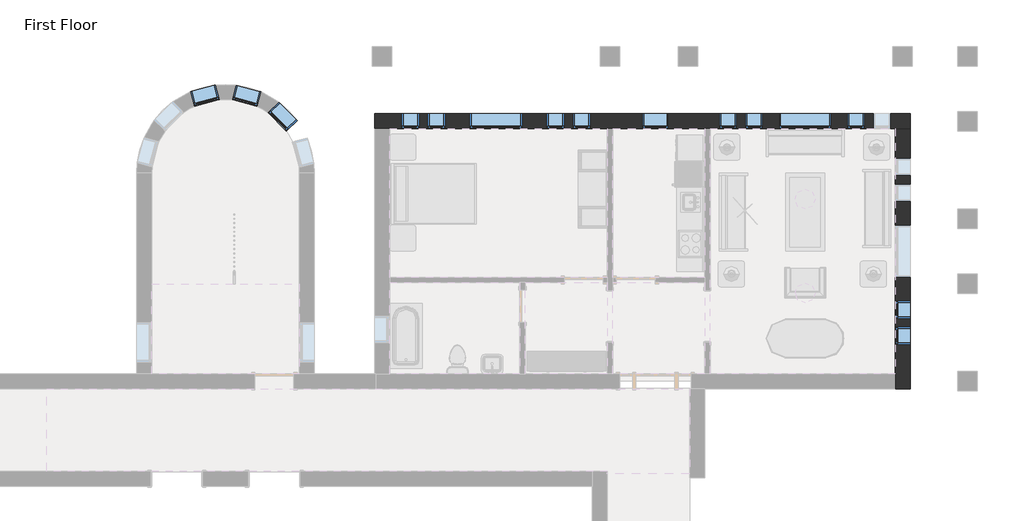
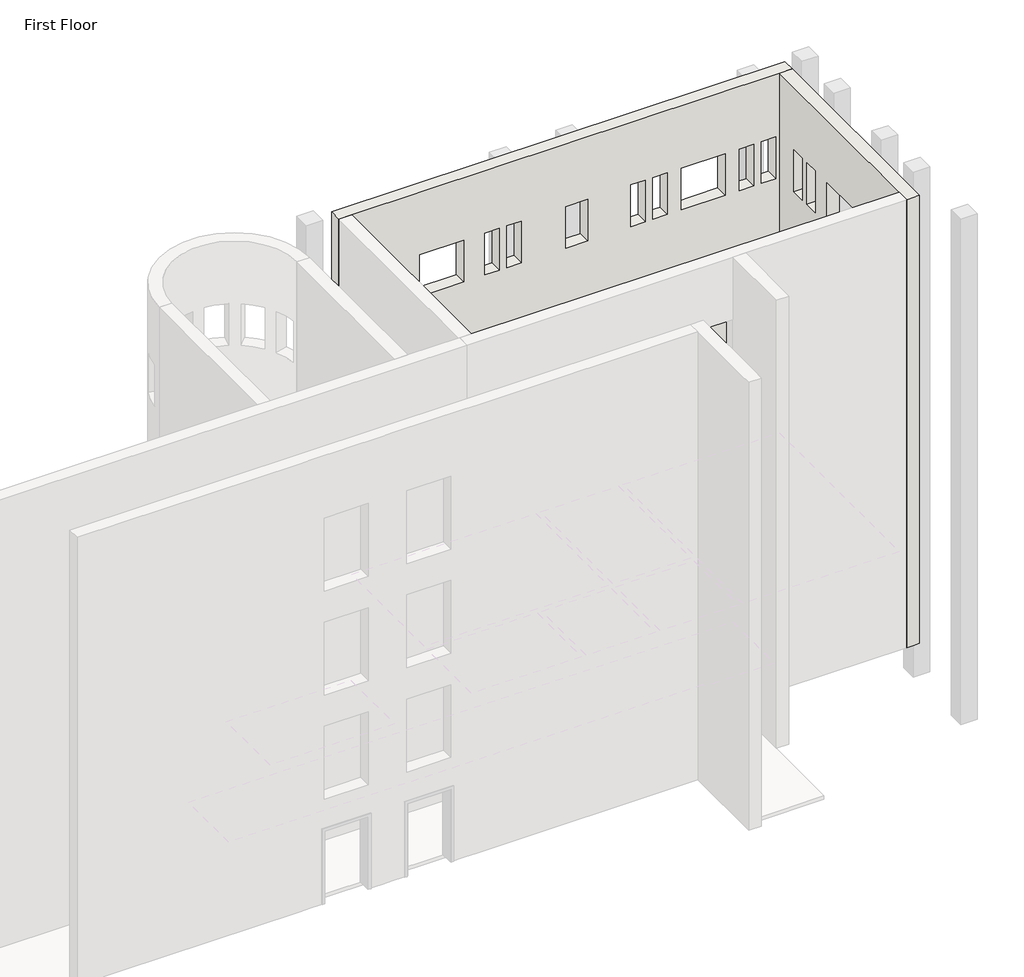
# One storey, part 5 of 8: 15 windows, 2 walls.
"""IFC4 building model written with IfcOpenShell, lengths in millimetres."""

from ifc_helpers import new_model, si_unit, origin, place, context, project, spatial, faceted_brep, transform, mapped, element, save
from components import window_da97879f, window_d61ef850, window_60baf983, window_6eb97611

model = new_model("IFC4")

# Units and contexts
model_context = context("Model", 3, world=origin())
ifc_project = project(units=[si_unit("LENGTHUNIT", "METRE", prefix="MILLI")], contexts=[model_context])

# Site, building, storey
site = spatial("IfcSite", under=ifc_project)
building = spatial("IfcBuilding", under=site)
storey = spatial("IfcBuildingStorey", under=building, Name="First Floor", Elevation=0.0)

# Walls
placement = place(None, origin())
element("IfcWall", 1, ObjectType="Exterior - Brick on Mtl. Stud", at=placement, inside=storey, context=model_context, shape_type="Brep", body=[
    faceted_brep([(-11569.6714563, 10270.0191867, 13106.4), (-11217.2464563, 10270.0191867, 13106.4), (622.3285437, 10270.0191867, 13106.4), (974.7535437, 10270.0191867, 13106.4), (974.7535437, 10622.4441867, 13106.4), (-11569.6714563, 10622.4441867, 13106.4), (-11569.6714563, 10270.0191867, 0.0), (-11382.3464563, 10270.0191867, 0.0), (-11217.2464563, 10270.0191867, 0.0), (-6122.9589563, 10270.0191867, 0.0), (-5995.9589563, 10270.0191867, 0.0), (-3836.9589563, 10270.0191867, 0.0), (-3709.9589563, 10270.0191867, 0.0), (622.3285437, 10270.0191867, 0.0), (787.4285437, 10270.0191867, 0.0), (974.7535437, 10270.0191867, 0.0), (-90.4589563, 10270.0191867, 8229.6), (-90.4589563, 10270.0191867, 7010.4), (-496.8589563, 10270.0191867, 7010.4), (-496.8589563, 10270.0191867, 8229.6), (519.1410437, 10270.0191867, 8229.6), (519.1410437, 10270.0191867, 7010.4), (112.7410437, 10270.0191867, 7010.4), (112.7410437, 10270.0191867, 8229.6), (-2884.4589563, 10270.0191867, 8229.6), (-2478.0589563, 10270.0191867, 8229.6), (-2478.0589563, 10270.0191867, 7010.4), (-2884.4589563, 10270.0191867, 7010.4), (-3494.0589563, 10270.0191867, 8229.6), (-3087.6589563, 10270.0191867, 8229.6), (-3087.6589563, 10270.0191867, 7010.4), (-3494.0589563, 10270.0191867, 7010.4), (-7126.2589563, 10270.0191867, 8229.6), (-7126.2589563, 10270.0191867, 7010.4), (-7532.6589563, 10270.0191867, 7010.4), (-7532.6589563, 10270.0191867, 8229.6), (-6516.6589563, 10270.0191867, 8229.6), (-6516.6589563, 10270.0191867, 7010.4), (-6923.0589563, 10270.0191867, 7010.4), (-6923.0589563, 10270.0191867, 8229.6), (-10326.6589563, 10270.0191867, 8229.6), (-9920.2589563, 10270.0191867, 8229.6), (-9920.2589563, 10270.0191867, 7010.4), (-10326.6589563, 10270.0191867, 7010.4), (-10936.2589563, 10270.0191867, 8229.6), (-10529.8589563, 10270.0191867, 8229.6), (-10529.8589563, 10270.0191867, 7010.4), (-10936.2589563, 10270.0191867, 7010.4), (-2097.0589563, 10270.0191867, 8229.6), (-877.8589563, 10270.0191867, 8229.6), (-877.8589563, 10270.0191867, 7010.4), (-2097.0589563, 10270.0191867, 7010.4), (-9336.0589563, 10270.0191867, 8229.6), (-8116.8589563, 10270.0191867, 8229.6), (-8116.8589563, 10270.0191867, 7010.4), (-9336.0589563, 10270.0191867, 7010.4), (-5297.4589563, 10270.0191867, 8229.6), (-4687.8589563, 10270.0191867, 8229.6), (-4687.8589563, 10270.0191867, 7010.4), (-5297.4589563, 10270.0191867, 7010.4), (-90.4589563, 10270.0191867, 5181.6), (-90.4589563, 10270.0191867, 3962.4), (-496.8589563, 10270.0191867, 3962.4), (-496.8589563, 10270.0191867, 5181.6), (519.1410437, 10270.0191867, 5181.6), (519.1410437, 10270.0191867, 3962.4), (112.7410437, 10270.0191867, 3962.4), (112.7410437, 10270.0191867, 5181.6), (-2884.4589563, 10270.0191867, 5181.6), (-2478.0589563, 10270.0191867, 5181.6), (-2478.0589563, 10270.0191867, 3962.4), (-2884.4589563, 10270.0191867, 3962.4), (-3494.0589563, 10270.0191867, 5181.6), (-3087.6589563, 10270.0191867, 5181.6), (-3087.6589563, 10270.0191867, 3962.4), (-3494.0589563, 10270.0191867, 3962.4), (-7126.2589563, 10270.0191867, 5181.6), (-7126.2589563, 10270.0191867, 3962.4), (-7532.6589563, 10270.0191867, 3962.4), (-7532.6589563, 10270.0191867, 5181.6), (-6516.6589563, 10270.0191867, 5181.6), (-6516.6589563, 10270.0191867, 3962.4), (-6923.0589563, 10270.0191867, 3962.4), (-6923.0589563, 10270.0191867, 5181.6), (-10326.6589563, 10270.0191867, 5181.6), (-9920.2589563, 10270.0191867, 5181.6), (-9920.2589563, 10270.0191867, 3962.4), (-10326.6589563, 10270.0191867, 3962.4), (-10936.2589563, 10270.0191867, 5181.6), (-10529.8589563, 10270.0191867, 5181.6), (-10529.8589563, 10270.0191867, 3962.4), (-10936.2589563, 10270.0191867, 3962.4), (-2097.0589563, 10270.0191867, 5181.6), (-877.8589563, 10270.0191867, 5181.6), (-877.8589563, 10270.0191867, 3962.4), (-2097.0589563, 10270.0191867, 3962.4), (-9336.0589563, 10270.0191867, 5181.6), (-8116.8589563, 10270.0191867, 5181.6), (-8116.8589563, 10270.0191867, 3962.4), (-9336.0589563, 10270.0191867, 3962.4), (-5297.4589563, 10270.0191867, 5181.6), (-4687.8589563, 10270.0191867, 5181.6), (-4687.8589563, 10270.0191867, 3962.4), (-5297.4589563, 10270.0191867, 3962.4), (-90.4589563, 10270.0191867, 11277.6), (-90.4589563, 10270.0191867, 10058.4), (-496.8589563, 10270.0191867, 10058.4), (-496.8589563, 10270.0191867, 11277.6), (519.1410437, 10270.0191867, 11277.6), (519.1410437, 10270.0191867, 10058.4), (112.7410437, 10270.0191867, 10058.4), (112.7410437, 10270.0191867, 11277.6), (-2884.4589563, 10270.0191867, 11277.6), (-2478.0589563, 10270.0191867, 11277.6), (-2478.0589563, 10270.0191867, 10058.4), (-2884.4589563, 10270.0191867, 10058.4), (-3494.0589563, 10270.0191867, 11277.6), (-3087.6589563, 10270.0191867, 11277.6), (-3087.6589563, 10270.0191867, 10058.4), (-3494.0589563, 10270.0191867, 10058.4), (-7126.2589563, 10270.0191867, 11277.6), (-7126.2589563, 10270.0191867, 10058.4), (-7532.6589563, 10270.0191867, 10058.4), (-7532.6589563, 10270.0191867, 11277.6), (-6516.6589563, 10270.0191867, 11277.6), (-6516.6589563, 10270.0191867, 10058.4), (-6923.0589563, 10270.0191867, 10058.4), (-6923.0589563, 10270.0191867, 11277.6), (-10326.6589563, 10270.0191867, 11277.6), (-9920.2589563, 10270.0191867, 11277.6), (-9920.2589563, 10270.0191867, 10058.4), (-10326.6589563, 10270.0191867, 10058.4), (-10936.2589563, 10270.0191867, 11277.6), (-10529.8589563, 10270.0191867, 11277.6), (-10529.8589563, 10270.0191867, 10058.4), (-10936.2589563, 10270.0191867, 10058.4), (-2097.0589563, 10270.0191867, 11277.6), (-877.8589563, 10270.0191867, 11277.6), (-877.8589563, 10270.0191867, 10058.4), (-2097.0589563, 10270.0191867, 10058.4), (-9336.0589563, 10270.0191867, 11277.6), (-8116.8589563, 10270.0191867, 11277.6), (-8116.8589563, 10270.0191867, 10058.4), (-9336.0589563, 10270.0191867, 10058.4), (-5297.4589563, 10270.0191867, 11277.6), (-4687.8589563, 10270.0191867, 11277.6), (-4687.8589563, 10270.0191867, 10058.4), (-5297.4589563, 10270.0191867, 10058.4), (-2884.4589563, 10270.0191867, 2133.6), (-2478.0589563, 10270.0191867, 2133.6), (-2478.0589563, 10270.0191867, 914.4), (-2884.4589563, 10270.0191867, 914.4), (-3494.0589563, 10270.0191867, 2133.6), (-3087.6589563, 10270.0191867, 2133.6), (-3087.6589563, 10270.0191867, 914.4), (-3494.0589563, 10270.0191867, 914.4), (-10326.6589563, 10270.0191867, 2133.6), (-9920.2589563, 10270.0191867, 2133.6), (-9920.2589563, 10270.0191867, 914.4), (-10326.6589563, 10270.0191867, 914.4), (-10936.2589563, 10270.0191867, 2133.6), (-10529.8589563, 10270.0191867, 2133.6), (-10529.8589563, 10270.0191867, 914.4), (-10936.2589563, 10270.0191867, 914.4), (-2097.0589563, 10270.0191867, 2133.6), (-877.8589563, 10270.0191867, 2133.6), (-877.8589563, 10270.0191867, 914.4), (-2097.0589563, 10270.0191867, 914.4), (-9336.0589563, 10270.0191867, 2133.6), (-8116.8589563, 10270.0191867, 2133.6), (-8116.8589563, 10270.0191867, 914.4), (-9336.0589563, 10270.0191867, 914.4), (-5297.4589563, 10270.0191867, 2133.6), (-4687.8589563, 10270.0191867, 2133.6), (-4687.8589563, 10270.0191867, 914.4), (-5297.4589563, 10270.0191867, 914.4), (-6516.6589563, 10270.0191867, 2133.6), (-6516.6589563, 10270.0191867, 914.4), (-6923.0589563, 10270.0191867, 914.4), (-6923.0589563, 10270.0191867, 2133.6), (-7126.2589563, 10270.0191867, 2133.6), (-7126.2589563, 10270.0191867, 914.4), (-7532.6589563, 10270.0191867, 914.4), (-7532.6589563, 10270.0191867, 2133.6), (519.1410437, 10270.0191867, 2133.6), (519.1410437, 10270.0191867, 914.4), (112.7410437, 10270.0191867, 914.4), (112.7410437, 10270.0191867, 2133.6), (-90.4589563, 10270.0191867, 2133.6), (-90.4589563, 10270.0191867, 914.4), (-496.8589563, 10270.0191867, 914.4), (-496.8589563, 10270.0191867, 2133.6), (-11569.6714563, 10622.4441867, 0.0), (974.7535437, 10622.4441867, 0.0), (787.4285437, 10622.4441867, 0.0), (-11382.3464563, 10622.4441867, 0.0), (-90.4589563, 10622.4441867, 8229.6), (-496.8589563, 10622.4441867, 8229.6), (-496.8589563, 10622.4441867, 7010.4), (-90.4589563, 10622.4441867, 7010.4), (519.1410437, 10622.4441867, 8229.6), (112.7410437, 10622.4441867, 8229.6), (112.7410437, 10622.4441867, 7010.4), (519.1410437, 10622.4441867, 7010.4), (-2884.4589563, 10622.4441867, 8229.6), (-2884.4589563, 10622.4441867, 7010.4), (-2478.0589563, 10622.4441867, 7010.4), (-2478.0589563, 10622.4441867, 8229.6), (-3494.0589563, 10622.4441867, 8229.6), (-3494.0589563, 10622.4441867, 7010.4), (-3087.6589563, 10622.4441867, 7010.4), (-3087.6589563, 10622.4441867, 8229.6), (-7126.2589563, 10622.4441867, 8229.6), (-7532.6589563, 10622.4441867, 8229.6), (-7532.6589563, 10622.4441867, 7010.4), (-7126.2589563, 10622.4441867, 7010.4), (-6516.6589563, 10622.4441867, 8229.6), (-6923.0589563, 10622.4441867, 8229.6), (-6923.0589563, 10622.4441867, 7010.4), (-6516.6589563, 10622.4441867, 7010.4), (-10326.6589563, 10622.4441867, 8229.6), (-10326.6589563, 10622.4441867, 7010.4), (-9920.2589563, 10622.4441867, 7010.4), (-9920.2589563, 10622.4441867, 8229.6), (-10936.2589563, 10622.4441867, 8229.6), (-10936.2589563, 10622.4441867, 7010.4), (-10529.8589563, 10622.4441867, 7010.4), (-10529.8589563, 10622.4441867, 8229.6), (-2097.0589563, 10622.4441867, 8229.6), (-2097.0589563, 10622.4441867, 7010.4), (-877.8589563, 10622.4441867, 7010.4), (-877.8589563, 10622.4441867, 8229.6), (-9336.0589563, 10622.4441867, 8229.6), (-9336.0589563, 10622.4441867, 7010.4), (-8116.8589563, 10622.4441867, 7010.4), (-8116.8589563, 10622.4441867, 8229.6), (-5297.4589563, 10622.4441867, 8229.6), (-5297.4589563, 10622.4441867, 7010.4), (-4687.8589563, 10622.4441867, 7010.4), (-4687.8589563, 10622.4441867, 8229.6), (-90.4589563, 10622.4441867, 5181.6), (-496.8589563, 10622.4441867, 5181.6), (-496.8589563, 10622.4441867, 3962.4), (-90.4589563, 10622.4441867, 3962.4), (519.1410437, 10622.4441867, 5181.6), (112.7410437, 10622.4441867, 5181.6), (112.7410437, 10622.4441867, 3962.4), (519.1410437, 10622.4441867, 3962.4), (-2884.4589563, 10622.4441867, 5181.6), (-2884.4589563, 10622.4441867, 3962.4), (-2478.0589563, 10622.4441867, 3962.4), (-2478.0589563, 10622.4441867, 5181.6), (-3494.0589563, 10622.4441867, 5181.6), (-3494.0589563, 10622.4441867, 3962.4), (-3087.6589563, 10622.4441867, 3962.4), (-3087.6589563, 10622.4441867, 5181.6), (-7126.2589563, 10622.4441867, 5181.6), (-7532.6589563, 10622.4441867, 5181.6), (-7532.6589563, 10622.4441867, 3962.4), (-7126.2589563, 10622.4441867, 3962.4), (-6516.6589563, 10622.4441867, 5181.6), (-6923.0589563, 10622.4441867, 5181.6), (-6923.0589563, 10622.4441867, 3962.4), (-6516.6589563, 10622.4441867, 3962.4), (-10326.6589563, 10622.4441867, 5181.6), (-10326.6589563, 10622.4441867, 3962.4), (-9920.2589563, 10622.4441867, 3962.4), (-9920.2589563, 10622.4441867, 5181.6), (-10936.2589563, 10622.4441867, 5181.6), (-10936.2589563, 10622.4441867, 3962.4), (-10529.8589563, 10622.4441867, 3962.4), (-10529.8589563, 10622.4441867, 5181.6), (-2097.0589563, 10622.4441867, 5181.6), (-2097.0589563, 10622.4441867, 3962.4), (-877.8589563, 10622.4441867, 3962.4), (-877.8589563, 10622.4441867, 5181.6), (-9336.0589563, 10622.4441867, 5181.6), (-9336.0589563, 10622.4441867, 3962.4), (-8116.8589563, 10622.4441867, 3962.4), (-8116.8589563, 10622.4441867, 5181.6), (-5297.4589563, 10622.4441867, 5181.6), (-5297.4589563, 10622.4441867, 3962.4), (-4687.8589563, 10622.4441867, 3962.4), (-4687.8589563, 10622.4441867, 5181.6), (-90.4589563, 10622.4441867, 11277.6), (-496.8589563, 10622.4441867, 11277.6), (-496.8589563, 10622.4441867, 10058.4), (-90.4589563, 10622.4441867, 10058.4), (519.1410437, 10622.4441867, 11277.6), (112.7410437, 10622.4441867, 11277.6), (112.7410437, 10622.4441867, 10058.4), (519.1410437, 10622.4441867, 10058.4), (-2884.4589563, 10622.4441867, 11277.6), (-2884.4589563, 10622.4441867, 10058.4), (-2478.0589563, 10622.4441867, 10058.4), (-2478.0589563, 10622.4441867, 11277.6), (-3494.0589563, 10622.4441867, 11277.6), (-3494.0589563, 10622.4441867, 10058.4), (-3087.6589563, 10622.4441867, 10058.4), (-3087.6589563, 10622.4441867, 11277.6), (-7126.2589563, 10622.4441867, 11277.6), (-7532.6589563, 10622.4441867, 11277.6), (-7532.6589563, 10622.4441867, 10058.4), (-7126.2589563, 10622.4441867, 10058.4), (-6516.6589563, 10622.4441867, 11277.6), (-6923.0589563, 10622.4441867, 11277.6), (-6923.0589563, 10622.4441867, 10058.4), (-6516.6589563, 10622.4441867, 10058.4), (-10326.6589563, 10622.4441867, 11277.6), (-10326.6589563, 10622.4441867, 10058.4), (-9920.2589563, 10622.4441867, 10058.4), (-9920.2589563, 10622.4441867, 11277.6), (-10936.2589563, 10622.4441867, 11277.6), (-10936.2589563, 10622.4441867, 10058.4), (-10529.8589563, 10622.4441867, 10058.4), (-10529.8589563, 10622.4441867, 11277.6), (-2097.0589563, 10622.4441867, 11277.6), (-2097.0589563, 10622.4441867, 10058.4), (-877.8589563, 10622.4441867, 10058.4), (-877.8589563, 10622.4441867, 11277.6), (-9336.0589563, 10622.4441867, 11277.6), (-9336.0589563, 10622.4441867, 10058.4), (-8116.8589563, 10622.4441867, 10058.4), (-8116.8589563, 10622.4441867, 11277.6), (-5297.4589563, 10622.4441867, 11277.6), (-5297.4589563, 10622.4441867, 10058.4), (-4687.8589563, 10622.4441867, 10058.4), (-4687.8589563, 10622.4441867, 11277.6), (-2884.4589563, 10622.4441867, 2133.6), (-2884.4589563, 10622.4441867, 914.4), (-2478.0589563, 10622.4441867, 914.4), (-2478.0589563, 10622.4441867, 2133.6), (-3494.0589563, 10622.4441867, 2133.6), (-3494.0589563, 10622.4441867, 914.4), (-3087.6589563, 10622.4441867, 914.4), (-3087.6589563, 10622.4441867, 2133.6), (-10326.6589563, 10622.4441867, 2133.6), (-10326.6589563, 10622.4441867, 914.4), (-9920.2589563, 10622.4441867, 914.4), (-9920.2589563, 10622.4441867, 2133.6), (-10936.2589563, 10622.4441867, 2133.6), (-10936.2589563, 10622.4441867, 914.4), (-10529.8589563, 10622.4441867, 914.4), (-10529.8589563, 10622.4441867, 2133.6), (-2097.0589563, 10622.4441867, 2133.6), (-2097.0589563, 10622.4441867, 914.4), (-877.8589563, 10622.4441867, 914.4), (-877.8589563, 10622.4441867, 2133.6), (-9336.0589563, 10622.4441867, 2133.6), (-9336.0589563, 10622.4441867, 914.4), (-8116.8589563, 10622.4441867, 914.4), (-8116.8589563, 10622.4441867, 2133.6), (-5297.4589563, 10622.4441867, 2133.6), (-5297.4589563, 10622.4441867, 914.4), (-4687.8589563, 10622.4441867, 914.4), (-4687.8589563, 10622.4441867, 2133.6), (-6516.6589563, 10622.4441867, 2133.6), (-6923.0589563, 10622.4441867, 2133.6), (-6923.0589563, 10622.4441867, 914.4), (-6516.6589563, 10622.4441867, 914.4), (-7126.2589563, 10622.4441867, 2133.6), (-7532.6589563, 10622.4441867, 2133.6), (-7532.6589563, 10622.4441867, 914.4), (-7126.2589563, 10622.4441867, 914.4), (519.1410437, 10622.4441867, 2133.6), (112.7410437, 10622.4441867, 2133.6), (112.7410437, 10622.4441867, 914.4), (519.1410437, 10622.4441867, 914.4), (-90.4589563, 10622.4441867, 2133.6), (-496.8589563, 10622.4441867, 2133.6), (-496.8589563, 10622.4441867, 914.4), (-90.4589563, 10622.4441867, 914.4), (974.7535437, 10435.1191867, 0.0), (-11569.6714563, 10435.1191867, 0.0), (-11382.3464563, 10435.1191867, 0.0), (787.4285437, 10435.1191867, 0.0)], [[[0, 1, 2, 3, 4, 5]], [[6, 7, 8, 9, 10, 11, 12, 13, 14, 15, 3, 2, 1, 0], [16, 17, 18, 19], [20, 21, 22, 23], [24, 25, 26, 27], [28, 29, 30, 31], [32, 33, 34, 35], [36, 37, 38, 39], [40, 41, 42, 43], [44, 45, 46, 47], [48, 49, 50, 51], [52, 53, 54, 55], [56, 57, 58, 59], [60, 61, 62, 63], [64, 65, 66, 67], [68, 69, 70, 71], [72, 73, 74, 75], [76, 77, 78, 79], [80, 81, 82, 83], [84, 85, 86, 87], [88, 89, 90, 91], [92, 93, 94, 95], [96, 97, 98, 99], [100, 101, 102, 103], [104, 105, 106, 107], [108, 109, 110, 111], [112, 113, 114, 115], [116, 117, 118, 119], [120, 121, 122, 123], [124, 125, 126, 127], [128, 129, 130, 131], [132, 133, 134, 135], [136, 137, 138, 139], [140, 141, 142, 143], [144, 145, 146, 147], [148, 149, 150, 151], [152, 153, 154, 155], [156, 157, 158, 159], [160, 161, 162, 163], [164, 165, 166, 167], [168, 169, 170, 171], [172, 173, 174, 175], [176, 177, 178, 179], [180, 181, 182, 183], [184, 185, 186, 187], [188, 189, 190, 191]], [[192, 5, 4, 193, 194, 195], [196, 197, 198, 199], [200, 201, 202, 203], [204, 205, 206, 207], [208, 209, 210, 211], [212, 213, 214, 215], [216, 217, 218, 219], [220, 221, 222, 223], [224, 225, 226, 227], [228, 229, 230, 231], [232, 233, 234, 235], [236, 237, 238, 239], [240, 241, 242, 243], [244, 245, 246, 247], [248, 249, 250, 251], [252, 253, 254, 255], [256, 257, 258, 259], [260, 261, 262, 263], [264, 265, 266, 267], [268, 269, 270, 271], [272, 273, 274, 275], [276, 277, 278, 279], [280, 281, 282, 283], [284, 285, 286, 287], [288, 289, 290, 291], [292, 293, 294, 295], [296, 297, 298, 299], [300, 301, 302, 303], [304, 305, 306, 307], [308, 309, 310, 311], [312, 313, 314, 315], [316, 317, 318, 319], [320, 321, 322, 323], [324, 325, 326, 327], [328, 329, 330, 331], [332, 333, 334, 335], [336, 337, 338, 339], [340, 341, 342, 343], [344, 345, 346, 347], [348, 349, 350, 351], [352, 353, 354, 355], [356, 357, 358, 359], [360, 361, 362, 363], [364, 365, 366, 367], [368, 369, 370, 371]], [[3, 15, 372, 193, 4]], [[6, 0, 5, 192, 373]], [[7, 6, 373, 374]], [[373, 192, 195, 374]], [[15, 14, 375, 372]], [[195, 194, 375, 374]], [[194, 193, 372, 375]], [[14, 13, 12, 11, 10, 9, 8, 7, 374, 375]], [[17, 16, 196, 199]], [[18, 17, 199, 198]], [[19, 18, 198, 197]], [[16, 19, 197, 196]], [[21, 20, 200, 203]], [[22, 21, 203, 202]], [[23, 22, 202, 201]], [[20, 23, 201, 200]], [[205, 204, 24, 27]], [[206, 205, 27, 26]], [[207, 206, 26, 25]], [[204, 207, 25, 24]], [[209, 208, 28, 31]], [[210, 209, 31, 30]], [[211, 210, 30, 29]], [[208, 211, 29, 28]], [[33, 32, 212, 215]], [[34, 33, 215, 214]], [[35, 34, 214, 213]], [[32, 35, 213, 212]], [[37, 36, 216, 219]], [[38, 37, 219, 218]], [[39, 38, 218, 217]], [[36, 39, 217, 216]], [[221, 220, 40, 43]], [[222, 221, 43, 42]], [[223, 222, 42, 41]], [[220, 223, 41, 40]], [[225, 224, 44, 47]], [[226, 225, 47, 46]], [[227, 226, 46, 45]], [[224, 227, 45, 44]], [[229, 228, 48, 51]], [[230, 229, 51, 50]], [[231, 230, 50, 49]], [[228, 231, 49, 48]], [[233, 232, 52, 55]], [[234, 233, 55, 54]], [[235, 234, 54, 53]], [[232, 235, 53, 52]], [[237, 236, 56, 59]], [[238, 237, 59, 58]], [[239, 238, 58, 57]], [[236, 239, 57, 56]], [[61, 60, 240, 243]], [[62, 61, 243, 242]], [[63, 62, 242, 241]], [[60, 63, 241, 240]], [[65, 64, 244, 247]], [[66, 65, 247, 246]], [[67, 66, 246, 245]], [[64, 67, 245, 244]], [[249, 248, 68, 71]], [[250, 249, 71, 70]], [[251, 250, 70, 69]], [[248, 251, 69, 68]], [[253, 252, 72, 75]], [[254, 253, 75, 74]], [[255, 254, 74, 73]], [[252, 255, 73, 72]], [[77, 76, 256, 259]], [[78, 77, 259, 258]], [[79, 78, 258, 257]], [[76, 79, 257, 256]], [[81, 80, 260, 263]], [[82, 81, 263, 262]], [[83, 82, 262, 261]], [[80, 83, 261, 260]], [[265, 264, 84, 87]], [[266, 265, 87, 86]], [[267, 266, 86, 85]], [[264, 267, 85, 84]], [[269, 268, 88, 91]], [[270, 269, 91, 90]], [[271, 270, 90, 89]], [[268, 271, 89, 88]], [[273, 272, 92, 95]], [[274, 273, 95, 94]], [[275, 274, 94, 93]], [[272, 275, 93, 92]], [[277, 276, 96, 99]], [[278, 277, 99, 98]], [[279, 278, 98, 97]], [[276, 279, 97, 96]], [[281, 280, 100, 103]], [[282, 281, 103, 102]], [[283, 282, 102, 101]], [[280, 283, 101, 100]], [[105, 104, 284, 287]], [[106, 105, 287, 286]], [[107, 106, 286, 285]], [[104, 107, 285, 284]], [[109, 108, 288, 291]], [[110, 109, 291, 290]], [[111, 110, 290, 289]], [[108, 111, 289, 288]], [[293, 292, 112, 115]], [[294, 293, 115, 114]], [[295, 294, 114, 113]], [[292, 295, 113, 112]], [[297, 296, 116, 119]], [[298, 297, 119, 118]], [[299, 298, 118, 117]], [[296, 299, 117, 116]], [[121, 120, 300, 303]], [[122, 121, 303, 302]], [[123, 122, 302, 301]], [[120, 123, 301, 300]], [[125, 124, 304, 307]], [[126, 125, 307, 306]], [[127, 126, 306, 305]], [[124, 127, 305, 304]], [[309, 308, 128, 131]], [[310, 309, 131, 130]], [[311, 310, 130, 129]], [[308, 311, 129, 128]], [[313, 312, 132, 135]], [[314, 313, 135, 134]], [[315, 314, 134, 133]], [[312, 315, 133, 132]], [[317, 316, 136, 139]], [[318, 317, 139, 138]], [[319, 318, 138, 137]], [[316, 319, 137, 136]], [[321, 320, 140, 143]], [[322, 321, 143, 142]], [[323, 322, 142, 141]], [[320, 323, 141, 140]], [[325, 324, 144, 147]], [[326, 325, 147, 146]], [[327, 326, 146, 145]], [[324, 327, 145, 144]], [[329, 328, 148, 151]], [[330, 329, 151, 150]], [[331, 330, 150, 149]], [[328, 331, 149, 148]], [[333, 332, 152, 155]], [[334, 333, 155, 154]], [[335, 334, 154, 153]], [[332, 335, 153, 152]], [[337, 336, 156, 159]], [[338, 337, 159, 158]], [[339, 338, 158, 157]], [[336, 339, 157, 156]], [[341, 340, 160, 163]], [[342, 341, 163, 162]], [[343, 342, 162, 161]], [[340, 343, 161, 160]], [[345, 344, 164, 167]], [[346, 345, 167, 166]], [[347, 346, 166, 165]], [[344, 347, 165, 164]], [[349, 348, 168, 171]], [[350, 349, 171, 170]], [[351, 350, 170, 169]], [[348, 351, 169, 168]], [[353, 352, 172, 175]], [[354, 353, 175, 174]], [[355, 354, 174, 173]], [[352, 355, 173, 172]], [[177, 176, 356, 359]], [[178, 177, 359, 358]], [[179, 178, 358, 357]], [[176, 179, 357, 356]], [[181, 180, 360, 363]], [[182, 181, 363, 362]], [[183, 182, 362, 361]], [[180, 183, 361, 360]], [[185, 184, 364, 367]], [[186, 185, 367, 366]], [[187, 186, 366, 365]], [[184, 187, 365, 364]], [[189, 188, 368, 371]], [[190, 189, 371, 370]], [[191, 190, 370, 369]], [[188, 191, 369, 368]]]),
])
element("IfcWall", 2, ObjectType="Exterior - Brick on Mtl. Stud", at=placement, inside=storey, context=model_context, shape_type="Brep", body=[
    faceted_brep([(622.3285437, 10270.0191867, 13106.4), (622.3285437, 4526.4441867, 13106.4), (622.3285437, 4174.0191867, 13106.4), (974.7535437, 4174.0191867, 13106.4), (974.7535437, 10270.0191867, 13106.4), (622.3285437, 10270.0191867, 0.0), (622.3285437, 4526.4441867, 0.0), (622.3285437, 4361.3441867, 0.0), (622.3285437, 4174.0191867, 0.0), (622.3285437, 5823.4316867, 8229.6), (622.3285437, 5823.4316867, 7010.4), (622.3285437, 6229.8316867, 7010.4), (622.3285437, 6229.8316867, 8229.6), (622.3285437, 5213.8316867, 8229.6), (622.3285437, 5213.8316867, 7010.4), (622.3285437, 5620.2316867, 7010.4), (622.3285437, 5620.2316867, 8229.6), (622.3285437, 8973.0316867, 8229.6), (622.3285437, 8566.6316867, 8229.6), (622.3285437, 8566.6316867, 7010.4), (622.3285437, 8973.0316867, 7010.4), (622.3285437, 9582.6316867, 8229.6), (622.3285437, 9176.2316867, 8229.6), (622.3285437, 9176.2316867, 7010.4), (622.3285437, 9582.6316867, 7010.4), (622.3285437, 8007.8316867, 8229.6), (622.3285437, 6788.6316867, 8229.6), (622.3285437, 6788.6316867, 7010.4), (622.3285437, 8007.8316867, 7010.4), (622.3285437, 5823.4316867, 5181.6), (622.3285437, 5823.4316867, 3962.4), (622.3285437, 6229.8316867, 3962.4), (622.3285437, 6229.8316867, 5181.6), (622.3285437, 5213.8316867, 5181.6), (622.3285437, 5213.8316867, 3962.4), (622.3285437, 5620.2316867, 3962.4), (622.3285437, 5620.2316867, 5181.6), (622.3285437, 8973.0316867, 5181.6), (622.3285437, 8566.6316867, 5181.6), (622.3285437, 8566.6316867, 3962.4), (622.3285437, 8973.0316867, 3962.4), (622.3285437, 9582.6316867, 5181.6), (622.3285437, 9176.2316867, 5181.6), (622.3285437, 9176.2316867, 3962.4), (622.3285437, 9582.6316867, 3962.4), (622.3285437, 8007.8316867, 5181.6), (622.3285437, 6788.6316867, 5181.6), (622.3285437, 6788.6316867, 3962.4), (622.3285437, 8007.8316867, 3962.4), (622.3285437, 5823.4316867, 11277.6), (622.3285437, 5823.4316867, 10058.4), (622.3285437, 6229.8316867, 10058.4), (622.3285437, 6229.8316867, 11277.6), (622.3285437, 5213.8316867, 11277.6), (622.3285437, 5213.8316867, 10058.4), (622.3285437, 5620.2316867, 10058.4), (622.3285437, 5620.2316867, 11277.6), (622.3285437, 8973.0316867, 11277.6), (622.3285437, 8566.6316867, 11277.6), (622.3285437, 8566.6316867, 10058.4), (622.3285437, 8973.0316867, 10058.4), (622.3285437, 9582.6316867, 11277.6), (622.3285437, 9176.2316867, 11277.6), (622.3285437, 9176.2316867, 10058.4), (622.3285437, 9582.6316867, 10058.4), (622.3285437, 8007.8316867, 11277.6), (622.3285437, 6788.6316867, 11277.6), (622.3285437, 6788.6316867, 10058.4), (622.3285437, 8007.8316867, 10058.4), (622.3285437, 8973.0316867, 2133.6), (622.3285437, 8566.6316867, 2133.6), (622.3285437, 8566.6316867, 914.4), (622.3285437, 8973.0316867, 914.4), (622.3285437, 9582.6316867, 2133.6), (622.3285437, 9176.2316867, 2133.6), (622.3285437, 9176.2316867, 914.4), (622.3285437, 9582.6316867, 914.4), (622.3285437, 8007.8316867, 2133.6), (622.3285437, 6788.6316867, 2133.6), (622.3285437, 6788.6316867, 914.4), (622.3285437, 8007.8316867, 914.4), (622.3285437, 5213.8316867, 2133.6), (622.3285437, 5213.8316867, 914.4), (622.3285437, 5620.2316867, 914.4), (622.3285437, 5620.2316867, 2133.6), (622.3285437, 5823.4316867, 2133.6), (622.3285437, 5823.4316867, 914.4), (622.3285437, 6229.8316867, 914.4), (622.3285437, 6229.8316867, 2133.6), (974.7535437, 10270.0191867, 0.0), (974.7535437, 4174.0191867, 0.0), (974.7535437, 4361.3441867, 0.0), (974.7535437, 5823.4316867, 8229.6), (974.7535437, 6229.8316867, 8229.6), (974.7535437, 6229.8316867, 7010.4), (974.7535437, 5823.4316867, 7010.4), (974.7535437, 5213.8316867, 8229.6), (974.7535437, 5620.2316867, 8229.6), (974.7535437, 5620.2316867, 7010.4), (974.7535437, 5213.8316867, 7010.4), (974.7535437, 8973.0316867, 8229.6), (974.7535437, 8973.0316867, 7010.4), (974.7535437, 8566.6316867, 7010.4), (974.7535437, 8566.6316867, 8229.6), (974.7535437, 9582.6316867, 8229.6), (974.7535437, 9582.6316867, 7010.4), (974.7535437, 9176.2316867, 7010.4), (974.7535437, 9176.2316867, 8229.6), (974.7535437, 8007.8316867, 8229.6), (974.7535437, 8007.8316867, 7010.4), (974.7535437, 6788.6316867, 7010.4), (974.7535437, 6788.6316867, 8229.6), (974.7535437, 5823.4316867, 5181.6), (974.7535437, 6229.8316867, 5181.6), (974.7535437, 6229.8316867, 3962.4), (974.7535437, 5823.4316867, 3962.4), (974.7535437, 5213.8316867, 5181.6), (974.7535437, 5620.2316867, 5181.6), (974.7535437, 5620.2316867, 3962.4), (974.7535437, 5213.8316867, 3962.4), (974.7535437, 8973.0316867, 5181.6), (974.7535437, 8973.0316867, 3962.4), (974.7535437, 8566.6316867, 3962.4), (974.7535437, 8566.6316867, 5181.6), (974.7535437, 9582.6316867, 5181.6), (974.7535437, 9582.6316867, 3962.4), (974.7535437, 9176.2316867, 3962.4), (974.7535437, 9176.2316867, 5181.6), (974.7535437, 8007.8316867, 5181.6), (974.7535437, 8007.8316867, 3962.4), (974.7535437, 6788.6316867, 3962.4), (974.7535437, 6788.6316867, 5181.6), (974.7535437, 5823.4316867, 11277.6), (974.7535437, 6229.8316867, 11277.6), (974.7535437, 6229.8316867, 10058.4), (974.7535437, 5823.4316867, 10058.4), (974.7535437, 5213.8316867, 11277.6), (974.7535437, 5620.2316867, 11277.6), (974.7535437, 5620.2316867, 10058.4), (974.7535437, 5213.8316867, 10058.4), (974.7535437, 8973.0316867, 11277.6), (974.7535437, 8973.0316867, 10058.4), (974.7535437, 8566.6316867, 10058.4), (974.7535437, 8566.6316867, 11277.6), (974.7535437, 9582.6316867, 11277.6), (974.7535437, 9582.6316867, 10058.4), (974.7535437, 9176.2316867, 10058.4), (974.7535437, 9176.2316867, 11277.6), (974.7535437, 8007.8316867, 11277.6), (974.7535437, 8007.8316867, 10058.4), (974.7535437, 6788.6316867, 10058.4), (974.7535437, 6788.6316867, 11277.6), (974.7535437, 8973.0316867, 2133.6), (974.7535437, 8973.0316867, 914.4), (974.7535437, 8566.6316867, 914.4), (974.7535437, 8566.6316867, 2133.6), (974.7535437, 9582.6316867, 2133.6), (974.7535437, 9582.6316867, 914.4), (974.7535437, 9176.2316867, 914.4), (974.7535437, 9176.2316867, 2133.6), (974.7535437, 8007.8316867, 2133.6), (974.7535437, 8007.8316867, 914.4), (974.7535437, 6788.6316867, 914.4), (974.7535437, 6788.6316867, 2133.6), (974.7535437, 5213.8316867, 2133.6), (974.7535437, 5620.2316867, 2133.6), (974.7535437, 5620.2316867, 914.4), (974.7535437, 5213.8316867, 914.4), (974.7535437, 5823.4316867, 2133.6), (974.7535437, 6229.8316867, 2133.6), (974.7535437, 6229.8316867, 914.4), (974.7535437, 5823.4316867, 914.4), (787.4285437, 10270.0191867, 0.0), (787.4285437, 4174.0191867, 0.0), (787.4285437, 4361.3441867, 0.0)], [[[0, 1, 2, 3, 4]], [[5, 6, 7, 8, 2, 1, 0], [9, 10, 11, 12], [13, 14, 15, 16], [17, 18, 19, 20], [21, 22, 23, 24], [25, 26, 27, 28], [29, 30, 31, 32], [33, 34, 35, 36], [37, 38, 39, 40], [41, 42, 43, 44], [45, 46, 47, 48], [49, 50, 51, 52], [53, 54, 55, 56], [57, 58, 59, 60], [61, 62, 63, 64], [65, 66, 67, 68], [69, 70, 71, 72], [73, 74, 75, 76], [77, 78, 79, 80], [81, 82, 83, 84], [85, 86, 87, 88]], [[89, 4, 3, 90, 91], [92, 93, 94, 95], [96, 97, 98, 99], [100, 101, 102, 103], [104, 105, 106, 107], [108, 109, 110, 111], [112, 113, 114, 115], [116, 117, 118, 119], [120, 121, 122, 123], [124, 125, 126, 127], [128, 129, 130, 131], [132, 133, 134, 135], [136, 137, 138, 139], [140, 141, 142, 143], [144, 145, 146, 147], [148, 149, 150, 151], [152, 153, 154, 155], [156, 157, 158, 159], [160, 161, 162, 163], [164, 165, 166, 167], [168, 169, 170, 171]], [[5, 0, 4, 89, 172]], [[2, 8, 173, 90, 3]], [[172, 89, 91, 174]], [[8, 7, 174, 173]], [[174, 91, 90, 173]], [[7, 6, 5, 172, 174]], [[10, 9, 92, 95]], [[11, 10, 95, 94]], [[12, 11, 94, 93]], [[9, 12, 93, 92]], [[14, 13, 96, 99]], [[15, 14, 99, 98]], [[16, 15, 98, 97]], [[13, 16, 97, 96]], [[101, 100, 17, 20]], [[102, 101, 20, 19]], [[103, 102, 19, 18]], [[100, 103, 18, 17]], [[105, 104, 21, 24]], [[106, 105, 24, 23]], [[107, 106, 23, 22]], [[104, 107, 22, 21]], [[109, 108, 25, 28]], [[110, 109, 28, 27]], [[111, 110, 27, 26]], [[108, 111, 26, 25]], [[30, 29, 112, 115]], [[31, 30, 115, 114]], [[32, 31, 114, 113]], [[29, 32, 113, 112]], [[34, 33, 116, 119]], [[35, 34, 119, 118]], [[36, 35, 118, 117]], [[33, 36, 117, 116]], [[121, 120, 37, 40]], [[122, 121, 40, 39]], [[123, 122, 39, 38]], [[120, 123, 38, 37]], [[125, 124, 41, 44]], [[126, 125, 44, 43]], [[127, 126, 43, 42]], [[124, 127, 42, 41]], [[129, 128, 45, 48]], [[130, 129, 48, 47]], [[131, 130, 47, 46]], [[128, 131, 46, 45]], [[50, 49, 132, 135]], [[51, 50, 135, 134]], [[52, 51, 134, 133]], [[49, 52, 133, 132]], [[54, 53, 136, 139]], [[55, 54, 139, 138]], [[56, 55, 138, 137]], [[53, 56, 137, 136]], [[141, 140, 57, 60]], [[142, 141, 60, 59]], [[143, 142, 59, 58]], [[140, 143, 58, 57]], [[145, 144, 61, 64]], [[146, 145, 64, 63]], [[147, 146, 63, 62]], [[144, 147, 62, 61]], [[149, 148, 65, 68]], [[150, 149, 68, 67]], [[151, 150, 67, 66]], [[148, 151, 66, 65]], [[153, 152, 69, 72]], [[154, 153, 72, 71]], [[155, 154, 71, 70]], [[152, 155, 70, 69]], [[157, 156, 73, 76]], [[158, 157, 76, 75]], [[159, 158, 75, 74]], [[156, 159, 74, 73]], [[161, 160, 77, 80]], [[162, 161, 80, 79]], [[163, 162, 79, 78]], [[160, 163, 78, 77]], [[82, 81, 164, 167]], [[83, 82, 167, 166]], [[84, 83, 166, 165]], [[81, 84, 165, 164]], [[86, 85, 168, 171]], [[87, 86, 171, 170]], [[88, 87, 170, 169]], [[85, 88, 169, 168]]]),
])

# Windows
window_shape = window_da97879f(model_context)
element("IfcWindow", 3, ObjectType="Fixed : 16\" x 48\"", at=placement, inside=storey, context=model_context, shape_type="MappedRepresentation", body=[
    mapped(window_shape, transform((-10771.1589563, 10446.2316867, 0.0), x_axis=(-1.0, 0.0, 0.0), y_axis=(0.0, -1.0, 0.0), z_axis=(0.0, 0.0, 1.0))),
])
element("IfcWindow", 4, ObjectType="Fixed : 16\" x 48\"", at=placement, inside=storey, context=model_context, shape_type="MappedRepresentation", body=[
    mapped(window_shape, transform((-10161.5589563, 10446.2316867, 0.0), x_axis=(-1.0, 0.0, 0.0), y_axis=(0.0, -1.0, 0.0), z_axis=(0.0, 0.0, 1.0))),
])
element("IfcWindow", 5, ObjectType="Fixed : 16\" x 48\"", at=placement, inside=storey, context=model_context, shape_type="MappedRepresentation", body=[
    mapped(window_shape, transform((-3328.9589563, 10446.2316867, 0.0), x_axis=(-1.0, 0.0, 0.0), y_axis=(0.0, -1.0, 0.0), z_axis=(0.0, 0.0, 1.0))),
])
element("IfcWindow", 6, ObjectType="Fixed : 16\" x 48\"", at=placement, inside=storey, context=model_context, shape_type="MappedRepresentation", body=[
    mapped(window_shape, transform((-2719.3589563, 10446.2316867, 0.0), x_axis=(-1.0, 0.0, 0.0), y_axis=(0.0, -1.0, 0.0), z_axis=(0.0, 0.0, 1.0))),
])
window_2_shape = window_d61ef850(model_context)
element("IfcWindow", 7, ObjectType="Fixed : 16\" x 48\"", at=placement, inside=storey, context=model_context, shape_type="MappedRepresentation", body=[
    mapped(window_2_shape, transform((-6681.7589563, 10446.2316867, 0.0), x_axis=(1.0, 0.0, 0.0), y_axis=(0.0, 1.0, 0.0), z_axis=(0.0, 0.0, 1.0))),
])
element("IfcWindow", 8, ObjectType="Fixed : 16\" x 48\"", at=placement, inside=storey, context=model_context, shape_type="MappedRepresentation", body=[
    mapped(window_2_shape, transform((-7291.3589563, 10446.2316867, 0.0), x_axis=(1.0, 0.0, 0.0), y_axis=(0.0, 1.0, 0.0), z_axis=(0.0, 0.0, 1.0))),
])
element("IfcWindow", 9, ObjectType="Fixed : 16\" x 48\"", at=placement, inside=storey, context=model_context, shape_type="MappedRepresentation", body=[
    mapped(window_2_shape, transform((-255.5589563, 10446.2316867, 0.0), x_axis=(1.0, 0.0, 0.0), y_axis=(0.0, 1.0, 0.0), z_axis=(0.0, 0.0, 1.0))),
])
element("IfcWindow", 10, ObjectType="Fixed : 16\" x 48\"", at=placement, inside=storey, context=model_context, shape_type="MappedRepresentation", body=[
    mapped(window_2_shape, transform((798.5410437, 5378.9316867, 0.0), x_axis=(0.0, -1.0, 0.0), y_axis=(1.0, 0.0, 0.0), z_axis=(0.0, 0.0, 1.0))),
])
element("IfcWindow", 11, ObjectType="Fixed : 16\" x 48\"", at=placement, inside=storey, context=model_context, shape_type="MappedRepresentation", body=[
    mapped(window_2_shape, transform((798.5410437, 5988.5316867, 0.0), x_axis=(0.0, -1.0, 0.0), y_axis=(1.0, 0.0, 0.0), z_axis=(0.0, 0.0, 1.0))),
])
window_3_shape = window_60baf983(model_context)
element("IfcWindow", 12, ObjectType="Fixed : 24\" x 48\"", at=placement, inside=storey, context=model_context, shape_type="MappedRepresentation", body=[
    mapped(window_3_shape, transform((-5030.7589563, 10446.2316867, 0.0), x_axis=(-1.0, 0.0, 0.0), y_axis=(0.0, -1.0, 0.0), z_axis=(0.0, 0.0, 1.0))),
])
element("IfcWindow", 13, ObjectType="Fixed : 24\" x 48\"", at=placement, inside=storey, context=model_context, shape_type="MappedRepresentation", body=[
    mapped(window_3_shape, transform((-15580.7015108, 11037.1722121, 0.0), x_axis=(-0.96671009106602, -0.25587418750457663, 0.0), y_axis=(0.25587418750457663, -0.96671009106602, 0.0), z_axis=(0.0, 0.0, 1.0))),
])
element("IfcWindow", 14, ObjectType="Fixed : 24\" x 48\"", at=placement, inside=storey, context=model_context, shape_type="MappedRepresentation", body=[
    mapped(window_3_shape, transform((-14606.1613934, 11053.9243933, 0.0), x_axis=(-0.9651325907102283, 0.2617614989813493, 0.0), y_axis=(-0.2617614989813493, -0.9651325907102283, 0.0), z_axis=(0.0, 0.0, 1.0))),
])
element("IfcWindow", 15, ObjectType="Fixed : 24\" x 48\"", at=placement, inside=storey, context=model_context, shape_type="MappedRepresentation", body=[
    mapped(window_3_shape, transform((-13753.8088042, 10581.1621492, 0.0), x_axis=(-0.7049485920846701, 0.7092584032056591, 0.0), y_axis=(-0.7092584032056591, -0.7049485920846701, 0.0), z_axis=(0.0, 0.0, 1.0))),
])
window_4_shape = window_6eb97611(model_context)
element("IfcWindow", 16, ObjectType="Fixed : 48\" x 48\"", at=placement, inside=storey, context=model_context, shape_type="MappedRepresentation", body=[
    mapped(window_4_shape, transform((-8764.5589563, 10446.2316867, 0.0), x_axis=(-1.0, 0.0, 0.0), y_axis=(0.0, -1.0, 0.0), z_axis=(0.0, 0.0, 1.0))),
])
element("IfcWindow", 17, ObjectType="Fixed : 48\" x 48\"", at=placement, inside=storey, context=model_context, shape_type="MappedRepresentation", body=[
    mapped(window_4_shape, transform((-1525.5589563, 10446.2316867, 0.0), x_axis=(-1.0, 0.0, 0.0), y_axis=(0.0, -1.0, 0.0), z_axis=(0.0, 0.0, 1.0))),
])

save(model, "model.ifc")
